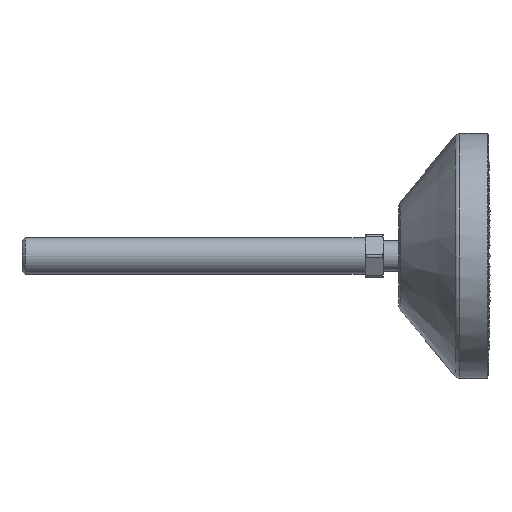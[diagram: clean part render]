
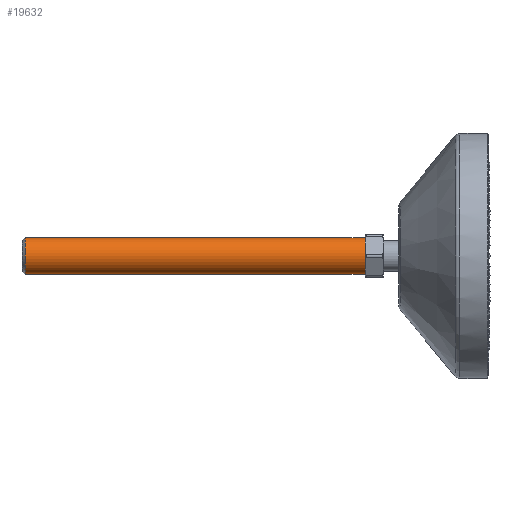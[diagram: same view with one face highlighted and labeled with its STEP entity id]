
A CAD part, left-side view. The second image highlights one B-rep face of the part: STEP entity #19632.
In plain terms, the highlighted cylindrical face has radius 6 mm (diameter 12 mm), a partial arc.
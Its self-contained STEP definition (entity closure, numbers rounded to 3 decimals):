
#630 = DIRECTION ( 'NONE',  ( 0., -1., 0. ) ) ;
#1376 = EDGE_CURVE ( 'NONE', #38916, #41229, #4938, .T. ) ;
#3273 = EDGE_LOOP ( 'NONE', ( #63957, #49888, #40745, #60634 ) ) ;
#4938 = CIRCLE ( 'NONE', #54373, 6. ) ;
#5193 = CYLINDRICAL_SURFACE ( 'NONE', #49241, 6. ) ;
#8495 = DIRECTION ( 'NONE',  ( 0., -1., 0. ) ) ;
#11565 = CIRCLE ( 'NONE', #59846, 6. ) ;
#13427 = CARTESIAN_POINT ( 'NONE',  ( 0., 40., 0. ) ) ;
#18926 = CARTESIAN_POINT ( 'NONE',  ( 0., 152., -6. ) ) ;
#19632 = ADVANCED_FACE ( 'NONE', ( #65003 ), #5193, .T. ) ;
#24938 = DIRECTION ( 'NONE',  ( 0., 0., 1. ) ) ;
#26690 = CARTESIAN_POINT ( 'NONE',  ( 0., 152., 0. ) ) ;
#28782 = DIRECTION ( 'NONE',  ( 0., -1., 0. ) ) ;
#29009 = VECTOR ( 'NONE', #28782, 1000. ) ;
#31007 = EDGE_CURVE ( 'NONE', #61413, #62597, #11565, .T. ) ;
#38916 = VERTEX_POINT ( 'NONE', #46971 ) ;
#39621 = DIRECTION ( 'NONE',  ( 0., -1., 0. ) ) ;
#39815 = EDGE_CURVE ( 'NONE', #62597, #41229, #61477, .T. ) ;
#40372 = VECTOR ( 'NONE', #63537, 1000. ) ;
#40745 = ORIENTED_EDGE ( 'NONE', *, *, #39815, .T. ) ;
#40917 = EDGE_CURVE ( 'NONE', #61413, #38916, #52315, .T. ) ;
#41229 = VERTEX_POINT ( 'NONE', #46643 ) ;
#44538 = CARTESIAN_POINT ( 'NONE',  ( 0., 151., 6. ) ) ;
#44899 = CARTESIAN_POINT ( 'NONE',  ( 0., 151., 0. ) ) ;
#46643 = CARTESIAN_POINT ( 'NONE',  ( 0., 40., -6. ) ) ;
#46971 = CARTESIAN_POINT ( 'NONE',  ( 0., 40., 6. ) ) ;
#48090 = DIRECTION ( 'NONE',  ( 0., 0., -1. ) ) ;
#49241 = AXIS2_PLACEMENT_3D ( 'NONE', #26690, #630, #48090 ) ;
#49888 = ORIENTED_EDGE ( 'NONE', *, *, #31007, .T. ) ;
#50003 = DIRECTION ( 'NONE',  ( 0., 0., -1. ) ) ;
#52315 = LINE ( 'NONE', #68854, #40372 ) ;
#52613 = CARTESIAN_POINT ( 'NONE',  ( 0., 151., -6. ) ) ;
#54373 = AXIS2_PLACEMENT_3D ( 'NONE', #13427, #8495, #50003 ) ;
#59846 = AXIS2_PLACEMENT_3D ( 'NONE', #44899, #39621, #24938 ) ;
#60634 = ORIENTED_EDGE ( 'NONE', *, *, #1376, .F. ) ;
#61413 = VERTEX_POINT ( 'NONE', #44538 ) ;
#61477 = LINE ( 'NONE', #18926, #29009 ) ;
#62597 = VERTEX_POINT ( 'NONE', #52613 ) ;
#63537 = DIRECTION ( 'NONE',  ( 0., -1., 0. ) ) ;
#63957 = ORIENTED_EDGE ( 'NONE', *, *, #40917, .F. ) ;
#65003 = FACE_OUTER_BOUND ( 'NONE', #3273, .T. ) ;
#68854 = CARTESIAN_POINT ( 'NONE',  ( 0., 152., 6. ) ) ;
